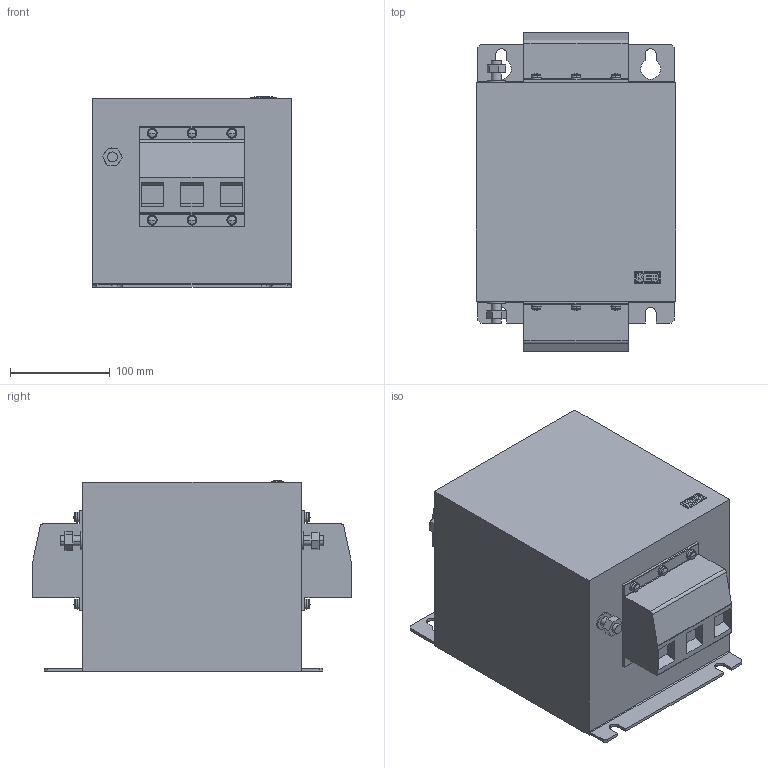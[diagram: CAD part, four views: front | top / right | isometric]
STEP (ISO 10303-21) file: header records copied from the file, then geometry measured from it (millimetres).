
FILE_DESCRIPTION (( 'STEP AP214' ), '1' );
FILE_NAME ('00E6X01-0024.STEP', '2023-07-10T14:51:34', ( '' ), ( '' ), 'SwSTEP 2.0', 'SolidWorks 2022', '' );
FILE_SCHEMA (( 'AUTOMOTIVE_DESIGN' ));
Length unit declared in the file: millimetre
Products named in the file (1): 00E6X01-0024
Bounding box: 200 x 320 x 191.52 mm (x, y, z)
Volume: 9136970.1 mm3; surface area: 312195.8 mm2
Topology: 1 solids, 1 shells, 300 faces, 771 edges, 506 vertices
Faces by surface type: plane 138, cylinder 77, sphere 24, torus 24, cone 24, bspline 13
Entity records: 10130 total; most frequent: CARTESIAN_POINT 2483, ORIENTED_EDGE 1542, DIRECTION 1513, EDGE_CURVE 771, AXIS2_PLACEMENT_3D 548, VERTEX_POINT 506, VECTOR 417, LINE 417
